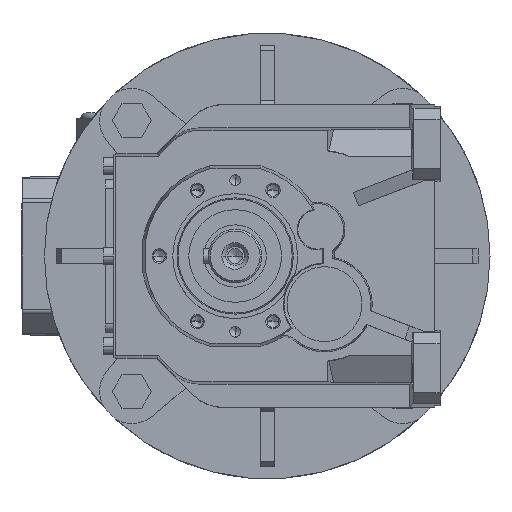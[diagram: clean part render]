
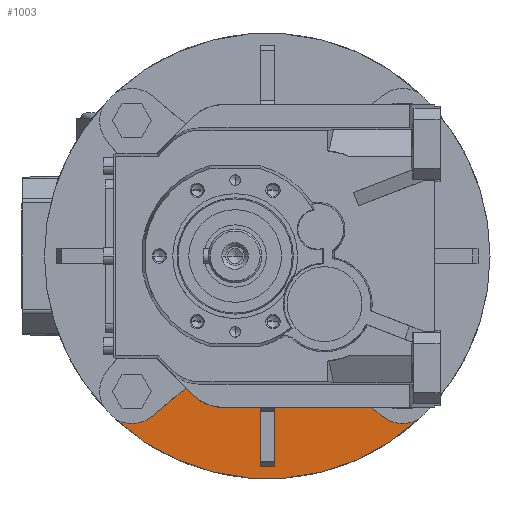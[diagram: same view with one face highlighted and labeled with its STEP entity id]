
A CAD part, left-side view. The second image highlights one B-rep face of the part: STEP entity #1003.
In plain terms, the highlighted planar face has unit normal (-1, 0, 0).
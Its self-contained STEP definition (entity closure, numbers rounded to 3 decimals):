
#1003 = ADVANCED_FACE( '', ( #3877 ), #3878, .T. );
#3877 = FACE_OUTER_BOUND( '', #8788, .T. );
#3878 = PLANE( '', #8789 );
#8788 = EDGE_LOOP( '', ( #16371, #16372, #16373, #16374, #16375, #16376, #16377, #16378, #16379, #16380 ) );
#8789 = AXIS2_PLACEMENT_3D( '', #16381, #16382, #16383 );
#16371 = ORIENTED_EDGE( '', *, *, #33676, .T. );
#16372 = ORIENTED_EDGE( '', *, *, #33966, .T. );
#16373 = ORIENTED_EDGE( '', *, *, #33975, .T. );
#16374 = ORIENTED_EDGE( '', *, *, #33976, .T. );
#16375 = ORIENTED_EDGE( '', *, *, #33977, .T. );
#16376 = ORIENTED_EDGE( '', *, *, #33978, .T. );
#16377 = ORIENTED_EDGE( '', *, *, #33979, .T. );
#16378 = ORIENTED_EDGE( '', *, *, #33980, .T. );
#16379 = ORIENTED_EDGE( '', *, *, #33981, .T. );
#16380 = ORIENTED_EDGE( '', *, *, #33982, .T. );
#16381 = CARTESIAN_POINT( '', ( 92., 107.5, 0. ) );
#16382 = DIRECTION( '', ( -1., 0., 0. ) );
#16383 = DIRECTION( '', ( 0., -1., 0. ) );
#33676 = EDGE_CURVE( '', #40727, #40725, #40728, .T. );
#33966 = EDGE_CURVE( '', #40725, #41215, #41217, .T. );
#33975 = EDGE_CURVE( '', #41215, #41233, #41234, .T. );
#33976 = EDGE_CURVE( '', #41233, #41235, #41236, .T. );
#33977 = EDGE_CURVE( '', #41235, #41237, #41238, .T. );
#33978 = EDGE_CURVE( '', #41237, #41239, #41240, .T. );
#33979 = EDGE_CURVE( '', #41239, #41241, #41242, .T. );
#33980 = EDGE_CURVE( '', #41241, #41243, #41244, .T. );
#33981 = EDGE_CURVE( '', #41243, #41245, #41246, .T. );
#33982 = EDGE_CURVE( '', #41245, #40727, #41247, .T. );
#40725 = VERTEX_POINT( '', #52243 );
#40727 = VERTEX_POINT( '', #52246 );
#40728 = CIRCLE( '', #52247, 125. );
#41215 = VERTEX_POINT( '', #53047 );
#41217 = CIRCLE( '', #53050, 18. );
#41233 = VERTEX_POINT( '', #53071 );
#41234 = LINE( '', #53072, #53073 );
#41235 = VERTEX_POINT( '', #53074 );
#41236 = CIRCLE( '', #53075, 85. );
#41237 = VERTEX_POINT( '', #53076 );
#41238 = LINE( '', #53077, #53078 );
#41239 = VERTEX_POINT( '', #53079 );
#41240 = LINE( '', #53080, #53081 );
#41241 = VERTEX_POINT( '', #53082 );
#41242 = LINE( '', #53083, #53084 );
#41243 = VERTEX_POINT( '', #53085 );
#41244 = CIRCLE( '', #53086, 85. );
#41245 = VERTEX_POINT( '', #53087 );
#41246 = LINE( '', #53088, #53089 );
#41247 = CIRCLE( '', #53090, 18. );
#52243 = CARTESIAN_POINT( '', ( 92., -85.118, -91.542 ) );
#52246 = CARTESIAN_POINT( '', ( 92., 85.118, -91.542 ) );
#52247 = AXIS2_PLACEMENT_3D( '', #68622, #68623, #68624 );
#53047 = CARTESIAN_POINT( '', ( 92., -64.444, -89.803 ) );
#53050 = AXIS2_PLACEMENT_3D( '', #69060, #69061, #69062 );
#53071 = CARTESIAN_POINT( '', ( 92., -44.053, -72.693 ) );
#53072 = CARTESIAN_POINT( '', ( 92., 8.116, -28.918 ) );
#53073 = VECTOR( '', #69077, 1. );
#53074 = CARTESIAN_POINT( '', ( 92., -4., -84.906 ) );
#53075 = AXIS2_PLACEMENT_3D( '', #69078, #69079, #69080 );
#53076 = CARTESIAN_POINT( '', ( 92., -4., -118.268 ) );
#53077 = CARTESIAN_POINT( '', ( 92., -4., 0. ) );
#53078 = VECTOR( '', #69081, 1. );
#53079 = CARTESIAN_POINT( '', ( 92., 4., -118.268 ) );
#53080 = CARTESIAN_POINT( '', ( 92., 55.75, -118.268 ) );
#53081 = VECTOR( '', #69082, 1. );
#53082 = CARTESIAN_POINT( '', ( 92., 4., -84.906 ) );
#53083 = CARTESIAN_POINT( '', ( 92., 4., 0. ) );
#53084 = VECTOR( '', #69083, 1. );
#53085 = CARTESIAN_POINT( '', ( 92., 44.053, -72.693 ) );
#53086 = AXIS2_PLACEMENT_3D( '', #69084, #69085, #69086 );
#53087 = CARTESIAN_POINT( '', ( 92., 64.444, -89.803 ) );
#53088 = CARTESIAN_POINT( '', ( 92., 43.477, -72.209 ) );
#53089 = VECTOR( '', #69087, 1. );
#53090 = AXIS2_PLACEMENT_3D( '', #69088, #69089, #69090 );
#68622 = CARTESIAN_POINT( '', ( 92., 0., 0. ) );
#68623 = DIRECTION( '', ( -1., 0., 0. ) );
#68624 = DIRECTION( '', ( 0., 1., 0. ) );
#69060 = CARTESIAN_POINT( '', ( 92., -76.014, -76.014 ) );
#69061 = DIRECTION( '', ( 1., 0., 0. ) );
#69062 = DIRECTION( '', ( 0., 0.643, -0.766 ) );
#69077 = DIRECTION( '', ( 0., 0.766, 0.643 ) );
#69078 = CARTESIAN_POINT( '', ( 92., 0., 0. ) );
#69079 = DIRECTION( '', ( 1., 0., 0. ) );
#69080 = DIRECTION( '', ( 0., 1., 0. ) );
#69081 = DIRECTION( '', ( 0., 0., -1. ) );
#69082 = DIRECTION( '', ( 0., 1., 0. ) );
#69083 = DIRECTION( '', ( 0., 0., 1. ) );
#69084 = CARTESIAN_POINT( '', ( 92., 0., 0. ) );
#69085 = DIRECTION( '', ( 1., 0., 0. ) );
#69086 = DIRECTION( '', ( 0., 1., 0. ) );
#69087 = DIRECTION( '', ( 0., 0.766, -0.643 ) );
#69088 = CARTESIAN_POINT( '', ( 92., 76.014, -76.014 ) );
#69089 = DIRECTION( '', ( 1., 0., 0. ) );
#69090 = DIRECTION( '', ( 0., 0.766, 0.643 ) );
